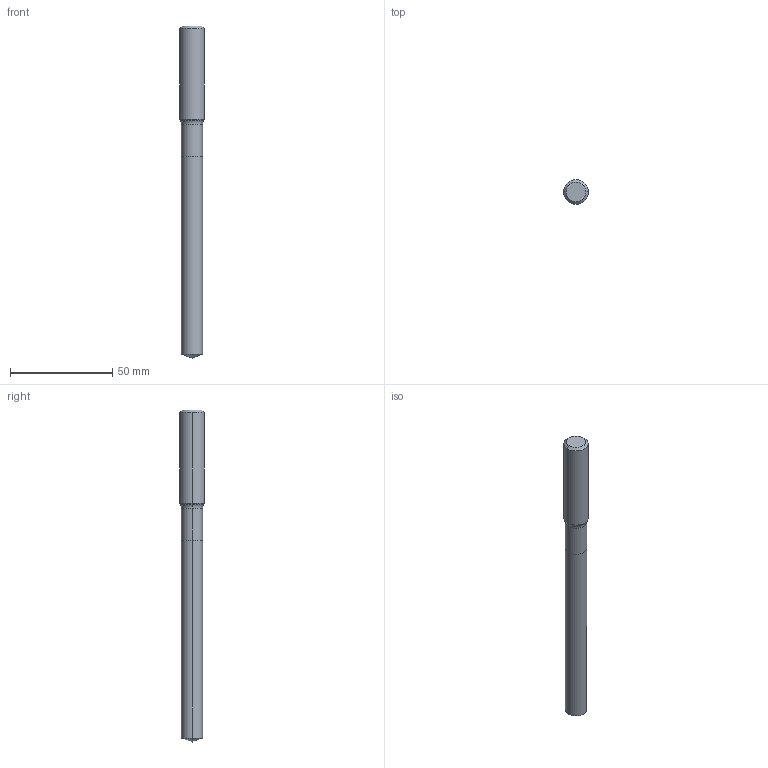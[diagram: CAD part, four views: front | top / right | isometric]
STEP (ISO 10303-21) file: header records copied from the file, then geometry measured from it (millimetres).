
FILE_DESCRIPTION (( 'STEP AP214' ), '1' );
FILE_NAME ('754.104.00_3D-model.step', '2023-08-22T07:16:10', ( '' ), ( '' ), 'SwSTEP 2.0', 'SolidWorks 2020', '' );
FILE_SCHEMA (( 'AUTOMOTIVE_DESIGN' ));
Length unit declared in the file: millimetre
Products named in the file (3): NOCUT-3D^Baugr31; CUT-3D^Baugr31; 754.104.00_3D-model
Assembly tree (2 placements, depth 2):
  754.104.00_3D-model
    CUT-3D^Baugr31
    NOCUT-3D^Baugr31
Bounding box: 12 x 12 x 162 mm (x, y, z)
Volume: 14933.5 mm3; surface area: 5815.1 mm2
Topology: 2 solids, 2 shells, 17 faces, 32 edges, 17 vertices
Faces by surface type: cone 6, cylinder 6, plane 3, torus 2
Entity records: 532 total; most frequent: DIRECTION 98, CARTESIAN_POINT 72, ORIENTED_EDGE 60, AXIS2_PLACEMENT_3D 43, EDGE_CURVE 30, CIRCLE 18, VERTEX_POINT 17, ADVANCED_FACE 17
